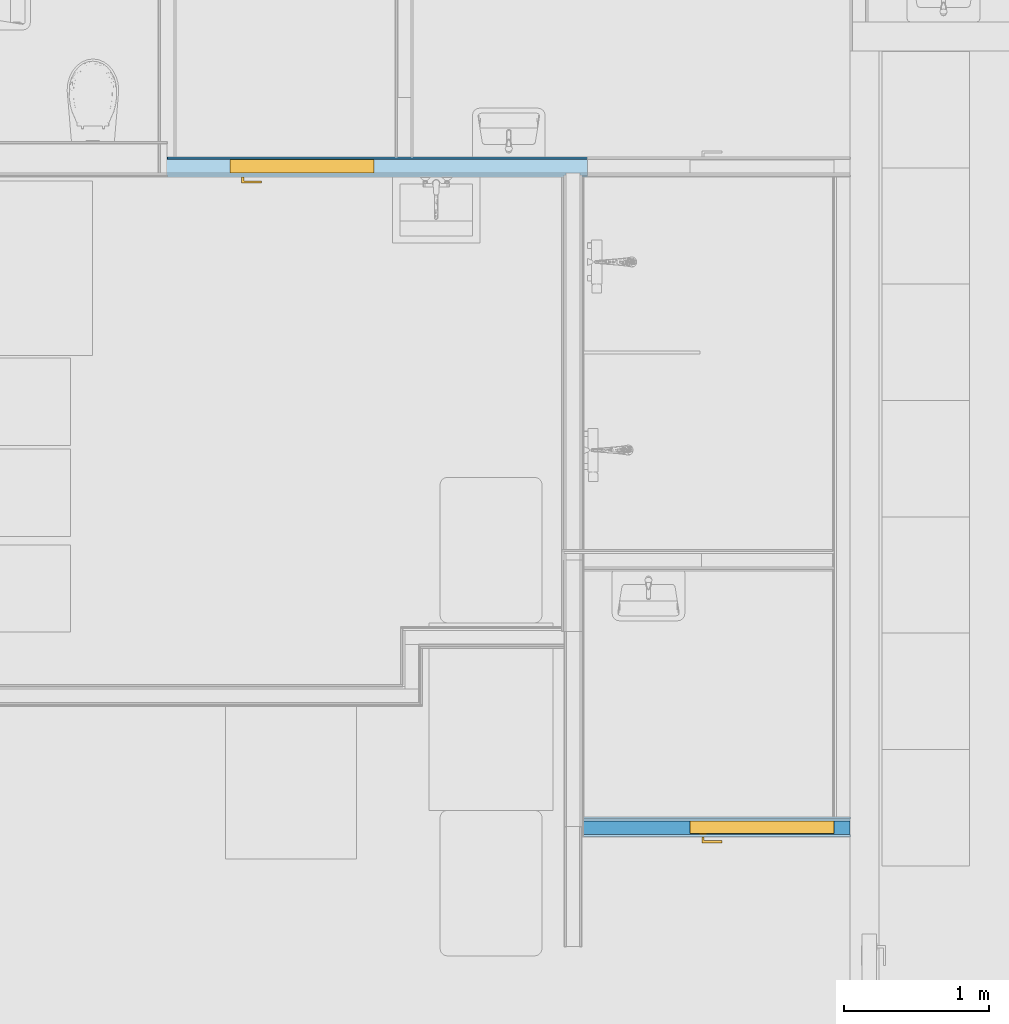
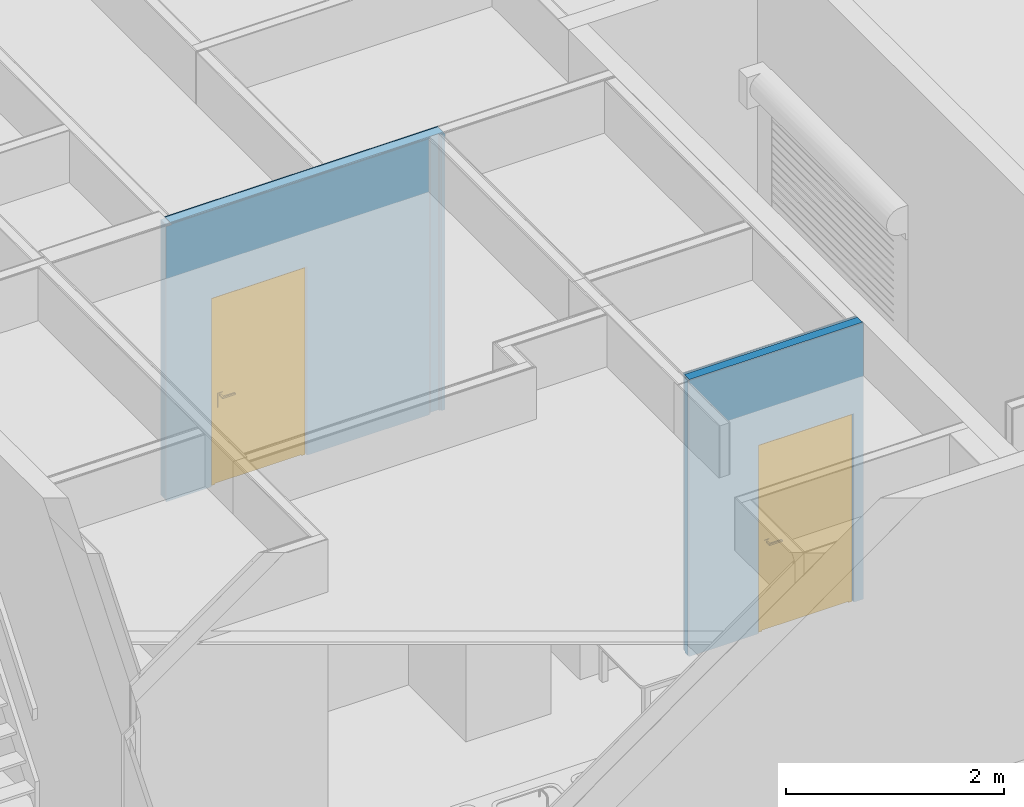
# One storey, part 24 of 67: 2 building element parts, 2 doors, 2 openings, 2 elements without a shape of their own, plus 8 elements that do not belong to this part.
"""IFC4 building model written with IfcOpenShell, lengths in millimetres."""

import ifcopenshell
import ifcopenshell.guid

model = None  # the IFC model being written
_history = None  # IfcOwnerHistory: only IFC2X3 demands one
_inside = {}  # id of a spatial element -> (the spatial element, [elements in it])
_under = {}  # id of a project, library or spatial element -> (it, [spatial elements below it])
_declared = {}  # id of a project -> (the project, [libraries it declares])
_typed = {}  # id of a type object -> (the type object, [elements of that type])
_made_of = {}  # id of a material, layer set ... -> (it, [elements and type objects made of it])


def new_model(schema):
    """Start an empty IFC model of exactly this schema.

    Asked for "IFC4X3", IfcOpenShell would pick the latest addendum, in which some entities
    have other attributes; the version numbers below select the first issue.
    IFC2X3 requires an IfcOwnerHistory on every rooted entity: one is made here for all.
    """
    global model, _history
    if schema == "IFC4X3":
        model = ifcopenshell.file(schema_version=(4, 3, 0, 0))
    else:
        model = ifcopenshell.file(schema=schema)
    _inside.clear()
    _under.clear()
    _declared.clear()
    _typed.clear()
    _made_of.clear()
    _history = None
    if model.schema == "IFC2X3":
        org = make("IfcOrganization", Name="unknown")
        user = make(
            "IfcPersonAndOrganization",
            ThePerson=make("IfcPerson", FamilyName="unknown"),
            TheOrganization=org,
        )
        app = make(
            "IfcApplication",
            ApplicationDeveloper=org,
            Version="unknown",
            ApplicationFullName="unknown",
            ApplicationIdentifier="unknown",
        )
        _history = make(
            "IfcOwnerHistory",
            OwningUser=user,
            OwningApplication=app,
            ChangeAction="ADDED",
            CreationDate=0,
        )
    return model


def make(cls, **values):
    """One entity of the class cls with the attributes given. An attribute that is None is left unset."""
    return model.create_entity(
        cls, **{name: value for name, value in values.items() if value is not None}
    )


def entity(cls, *values):
    """Any entity or typed value of the class cls, its attributes in the order of the schema. None: left unset."""
    e = model.create_entity(cls)
    for i, value in enumerate(values):
        if value is not None:
            e[i] = value
    return e


def rooted(cls, **values):
    """An entity with a GlobalId (a new one), such as an element, a storey or a relation."""
    return make(cls, GlobalId=ifcopenshell.guid.new(), OwnerHistory=_history, **values)


def si_unit(unit_type, name, prefix=None):
    """IfcSIUnit, for example si_unit("LENGTHUNIT", "METRE", prefix="MILLI")."""
    return make("IfcSIUnit", UnitType=unit_type, Prefix=prefix, Name=name)


def converted_unit(unit_type, name, factor, base, dimensions=None, offset=None):
    """IfcConversionBasedUnit, such as the inch: factor (a typed value) times the base unit."""
    return make(
        "IfcConversionBasedUnit"
        if offset is None
        else "IfcConversionBasedUnitWithOffset",
        ConversionOffset=offset,
        Dimensions=None
        if dimensions is None
        else entity("IfcDimensionalExponents", *dimensions),
        UnitType=unit_type,
        Name=name,
        ConversionFactor=make(
            "IfcMeasureWithUnit", ValueComponent=factor, UnitComponent=base
        ),
    )


def assignment(units):
    """IfcUnitAssignment: the units of a project."""
    return None if units is None else make("IfcUnitAssignment", Units=units)


def point(xyz):
    """IfcCartesianPoint."""
    return None if xyz is None else make("IfcCartesianPoint", Coordinates=xyz)


def direction(xyz):
    """IfcDirection."""
    return None if xyz is None else make("IfcDirection", DirectionRatios=xyz)


def frame(location, z_axis=None, x_axis=None):
    """IfcAxis2Placement3D, a coordinate frame: its origin and axes. An axis left out is left unset."""
    return make(
        "IfcAxis2Placement3D",
        Location=point(location),
        Axis=direction(z_axis),
        RefDirection=direction(x_axis),
    )


def origin():
    """The frame at (0, 0, 0) with its axes left unset."""
    return frame((0.0, 0.0, 0.0))


def place(relative_to, where):
    """IfcLocalPlacement: puts the frame where relative to a parent placement (None: the world)."""
    return make(
        "IfcLocalPlacement", PlacementRelTo=relative_to, RelativePlacement=where
    )


def context(
    kind, dimensions, precision=None, world=None, true_north=None, identifier=None
):
    """IfcGeometricRepresentationContext, for example the 3D "Model" context."""
    return make(
        "IfcGeometricRepresentationContext",
        ContextIdentifier=identifier,
        ContextType=kind,
        CoordinateSpaceDimension=dimensions,
        Precision=precision,
        WorldCoordinateSystem=world,
        TrueNorth=true_north,
    )


def subcontext(parent, identifier, kind, view, scale=None):
    """IfcGeometricRepresentationSubContext, for example "Body" below "Model"."""
    return make(
        "IfcGeometricRepresentationSubContext",
        ContextIdentifier=identifier,
        ContextType=kind,
        ParentContext=parent,
        TargetScale=scale,
        TargetView=view,
    )


def project(units=None, contexts=None):
    """IfcProject with its units and contexts."""
    return rooted(
        "IfcProject",
        Name="project",
        RepresentationContexts=contexts,
        UnitsInContext=assignment(units),
    )


def spatial(cls, under=None, at=None, **own):
    """A site, building, storey or space (cls), placed at a placement, below another one or the project."""
    s = rooted(cls, ObjectPlacement=at, **own)
    if under is not None:
        _under.setdefault(under.id(), (under, []))[1].append(s)
    return s


def point_list(points):
    """IfcCartesianPointList2D or 3D."""
    cls = (
        "IfcCartesianPointList2D" if len(points[0]) == 2 else "IfcCartesianPointList3D"
    )
    return make(cls, CoordList=points)


def indexed_curve(points, segments=None, self_intersect=None):
    """IfcIndexedPolyCurve: lines and arcs through numbered points (the first is 1)."""
    return make(
        "IfcIndexedPolyCurve",
        Points=point_list(points),
        Segments=segments,
        SelfIntersect=self_intersect,
    )


def outline(outer, holes=None, kind="AREA"):
    """IfcArbitraryClosedProfileDef: a profile drawn as a closed curve; with holes, ...WithVoids."""
    if holes is None:
        return make("IfcArbitraryClosedProfileDef", ProfileType=kind, OuterCurve=outer)
    return make(
        "IfcArbitraryProfileDefWithVoids",
        ProfileType=kind,
        OuterCurve=outer,
        InnerCurves=holes,
    )


def extrude(swept, where, along, depth):
    """IfcExtrudedAreaSolid: the profile swept, set in the frame where, extruded along a direction by depth."""
    return make(
        "IfcExtrudedAreaSolid",
        SweptArea=swept,
        Position=where,
        ExtrudedDirection=direction(along),
        Depth=depth,
    )


def polygons(points, faces, closed=None, point_numbers=None):
    """IfcPolygonalFaceSet: a face is its outer loop, then its inner loops; points numbered from 1."""
    made = []
    for loops in faces:
        if len(loops) == 1:
            made.append(make("IfcIndexedPolygonalFace", CoordIndex=loops[0]))
        else:
            made.append(
                make(
                    "IfcIndexedPolygonalFaceWithVoids",
                    CoordIndex=loops[0],
                    InnerCoordIndices=loops[1:],
                )
            )
    return make(
        "IfcPolygonalFaceSet",
        Coordinates=point_list(points),
        Closed=closed,
        Faces=made,
        PnIndex=point_numbers,
    )


def shape(context_of_items, identifier, shape_type, items):
    """IfcShapeRepresentation: the items that make up one representation, for example the "Body"."""
    return make(
        "IfcShapeRepresentation",
        ContextOfItems=context_of_items,
        RepresentationIdentifier=identifier,
        RepresentationType=shape_type,
        Items=items,
    )


def source(mapping_origin, context_of_items, identifier, shape_type, items):
    """IfcRepresentationMap: a shape defined once, which mapped items show again and again."""
    return make(
        "IfcRepresentationMap",
        MappingOrigin=mapping_origin,
        MappedRepresentation=shape(context_of_items, identifier, shape_type, items),
    )


def transform(
    local_origin,
    x_axis=None,
    y_axis=None,
    z_axis=None,
    scale=None,
    scale2=None,
    scale3=None,
    uniform=True,
):
    """IfcCartesianTransformationOperator3D, or its non-uniform kind. x_axis, y_axis, z_axis: its Axis1, 2, 3."""
    if uniform:
        return make(
            "IfcCartesianTransformationOperator3D",
            Axis1=direction(x_axis),
            Axis2=direction(y_axis),
            LocalOrigin=point(local_origin),
            Scale=scale,
            Axis3=direction(z_axis),
        )
    return make(
        "IfcCartesianTransformationOperator3DnonUniform",
        Axis1=direction(x_axis),
        Axis2=direction(y_axis),
        LocalOrigin=point(local_origin),
        Scale=scale,
        Axis3=direction(z_axis),
        Scale2=scale2,
        Scale3=scale3,
    )


def mapped(mapping_source, mapping_target):
    """IfcMappedItem: shows the shape of a source again, moved by a transform."""
    return make(
        "IfcMappedItem", MappingSource=mapping_source, MappingTarget=mapping_target
    )


def material(Name=None, Category=None):
    """IfcMaterial."""
    return make("IfcMaterial", Name=Name, Category=Category)


def constituent(of_material, Name=None, Category=None, fraction=None):
    """IfcMaterialConstituent: one of the materials an element consists of."""
    return make(
        "IfcMaterialConstituent",
        Name=Name,
        Material=of_material,
        Fraction=fraction,
        Category=Category,
    )


def constituent_set(constituents=None, Name=None):
    """IfcMaterialConstituentSet."""
    return make(
        "IfcMaterialConstituentSet", Name=Name, MaterialConstituents=constituents
    )


def made_of(thing, what):
    """Note that an element or type object is made of a material, layer set ...; save() writes the relation."""
    if what is not None:
        _made_of.setdefault(what.id(), (what, []))[1].append(thing)
    return thing


def type_object(cls, material=None, **own):
    """A type object (cls), such as IfcWallType, which elements share."""
    return made_of(rooted(cls, **own), material)


def type_shapes(of_type, sources):
    """Give a type object the sources (RepresentationMaps) that its elements show as mapped items."""
    of_type.RepresentationMaps = sources


def element(
    cls,
    number,
    at=None,
    inside=None,
    cuts=None,
    type_object=None,
    material=None,
    context=None,
    identifier="Body",
    shape_type=None,
    held_by="IfcProductDefinitionShape",
    body=None,
    shapes=None,
    **own,
):
    """One element of the class cls, such as IfcWall. Its Tag is "e" and its number.

    at: its placement. inside: the storey or other place that contains it. cuts: it is an
    opening in that element (IfcRelVoidsElement). A single representation is given by context,
    identifier, shape_type and body (its items); several are given by shapes. held_by: the class
    of the entity that holds the representations. save() writes the other relations.
    """
    e = rooted(cls, Tag="e%d" % number, ObjectPlacement=at, **own)
    if body is not None:
        shapes = [shape(context, identifier, shape_type, body)]
    if shapes is not None:
        e.Representation = make(held_by, Representations=shapes)
    if inside is not None:
        _inside.setdefault(inside.id(), (inside, []))[1].append(e)
    if cuts is not None:
        rooted(
            "IfcRelVoidsElement", RelatingBuildingElement=cuts, RelatedOpeningElement=e
        )
    if type_object is not None:
        _typed.setdefault(type_object.id(), (type_object, []))[1].append(e)
    return made_of(e, material)


def fill(opening, filler):
    """IfcRelFillsElement: the door or window that sits in an opening."""
    return rooted(
        "IfcRelFillsElement",
        RelatingOpeningElement=opening,
        RelatedBuildingElement=filler,
    )


def aggregate(whole, parts):
    """IfcRelAggregates: a whole, such as a stair, and the parts it consists of."""
    return rooted("IfcRelAggregates", RelatingObject=whole, RelatedObjects=parts)


def save(model, path):
    """Write the relations noted so far, then the file.

    IfcRelAggregates (storeys below a building ...), IfcRelContainedInSpatialStructure (elements
    in a storey), IfcRelDefinesByType, IfcRelAssociatesMaterial and IfcRelDeclares: one each for
    every whole, place, type object, material and project.
    """
    for whole, parts in _under.values():
        aggregate(whole, parts)
    for where, things in _inside.values():
        rooted(
            "IfcRelContainedInSpatialStructure",
            RelatedElements=things,
            RelatingStructure=where,
        )
    for kind, things in _typed.values():
        rooted("IfcRelDefinesByType", RelatedObjects=things, RelatingType=kind)
    for what, things in _made_of.values():
        rooted("IfcRelAssociatesMaterial", RelatedObjects=things, RelatingMaterial=what)
    for by, libraries in _declared.values():
        rooted("IfcRelDeclares", RelatingContext=by, RelatedDefinitions=libraries)
    model.write(path)


model = new_model("IFC4")

# Units and contexts
model_context = context("Model", 3, precision=0.01, world=origin(), true_north=direction((0.0, 1.0)))
body_context = subcontext(model_context, "Body", "Model", "MODEL_VIEW")
ifc_project = project(units=[si_unit("LENGTHUNIT", "METRE", prefix="MILLI"), si_unit("AREAUNIT", "SQUARE_METRE"), si_unit("VOLUMEUNIT", "CUBIC_METRE"), converted_unit("PLANEANGLEUNIT", "DEGREE", entity("IfcPlaneAngleMeasure", 0.017453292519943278), si_unit("PLANEANGLEUNIT", "RADIAN"), dimensions=[0, 0, 0, 0, 0, 0, 0])], contexts=[model_context])

# Site, building, storey
site_placement = place(None, origin())
site = spatial("IfcSite", under=ifc_project, at=site_placement, Name="Tomtens navn", CompositionType="ELEMENT")
building_placement = place(site_placement, origin())
building = spatial("IfcBuilding", under=site, at=building_placement, Name="Byggets navn", CompositionType="ELEMENT")
storey_placement = place(building_placement, origin())
storey = spatial("IfcBuildingStorey", under=building, at=storey_placement, Name="Level 01", CompositionType="ELEMENT", Elevation=2.1993652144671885e-25)

# Door
ifc_material_1 = material(Name="Rustfritt Stål", Category="Metal")
ifc_constituent_1 = constituent(ifc_material_1, Name="Rustfritt Stål", Category="Metal", fraction=0.0018055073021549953)
ifc_material_2 = material(Name="Hvit", Category="Paint")
ifc_constituent_2 = constituent(ifc_material_2, Name="Hvit", Category="Paint", fraction=0.998194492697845)
ifc_constituent_set_1 = constituent_set(constituents=[ifc_constituent_1, ifc_constituent_2])
ifc_constituent_3 = constituent(ifc_material_1, Name="Rustfritt Stål", Category="Metal", fraction=0.0009035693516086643)
ifc_constituent_4 = constituent(ifc_material_2, Name="Panel", Category="Paint", fraction=0.4995482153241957)
ifc_constituent_5 = constituent(ifc_material_2, Name="Frame/Mullion", Category="Paint", fraction=0.4995482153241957)
ifc_constituent_set_2 = constituent_set(constituents=[ifc_constituent_3, ifc_constituent_4, ifc_constituent_5])
door_type_1 = type_object("IfcDoorType", Name="Enfløyet:ID06 Tredør 10x21M", OperationType="SINGLE_SWING_LEFT", PredefinedType="DOOR", material=ifc_constituent_set_2)
shared_shape_1 = source(origin(), body_context, "Body", "SweptSolid", [
    extrude(outline(indexed_curve([(-33.33333333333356, -50.833333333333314), (24.16666666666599, -50.833333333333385), (24.16666666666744, 86.66666666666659), (9.166666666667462, 86.6666666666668), (9.166666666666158, -35.83333333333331), (-33.33333333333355, -35.83333333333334), (-33.33333333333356, -50.833333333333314)], self_intersect=False)), frame((868.6666666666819, 134.94103942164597, 980.5000000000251), z_axis=(0.0, 0.0, 1.0), x_axis=(0.0, 1.0, 0.0)), (0.0, 0.0, 1.0), 14.999999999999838),
    extrude(outline(indexed_curve([(-2.8000000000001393, -25.000000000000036), (2.799999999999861, -25.000000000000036), (2.8000000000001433, 25.000000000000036), (-2.799999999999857, 24.999999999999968), (-2.8000000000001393, -25.000000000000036)], self_intersect=False)), frame((912.0, 98.80000000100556, 850.9862950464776), z_axis=(0.0, 0.0, 1.0), x_axis=(0.0, -1.0, 0.0)), (0.0, 0.0, 1.0), 159.01370495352),
    extrude(outline(indexed_curve([(-50.83333333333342, -33.33333333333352), (-35.83333333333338, -33.33333333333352), (-35.83333333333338, 9.16666666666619), (86.66666666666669, 9.1666666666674), (86.66666666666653, 24.1666666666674), (-50.83333333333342, 24.16666666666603), (-50.83333333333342, -33.33333333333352)], self_intersect=False)), frame((868.6666666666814, 17.058960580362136, 980.5000000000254), z_axis=(0.0, 0.0, 1.0), x_axis=(-1.0, 0.0, 0.0)), (0.0, 0.0, 1.0), 14.999999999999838),
    extrude(outline(indexed_curve([(-25.0, -2.8000000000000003), (25.0, -2.8000000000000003), (24.999999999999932, 2.7999999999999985), (-25.0, 2.8000000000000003), (-25.0, -2.8000000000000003)], self_intersect=False)), frame((912.0, 53.20000000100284, 850.9862950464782)), (0.0, 0.0, 1.0), 159.01370495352),
    extrude(outline(indexed_curve([(-456.9999999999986, -20.0), (456.9999999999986, -20.0), (456.9999999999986, 20.0), (-456.9999999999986, 20.0), (-456.9999999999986, -20.0)], self_intersect=False)), frame((505.0, 76.00000000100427, 10.0)), (0.0, 0.0, 1.0), 2042.0),
    extrude(outline(indexed_curve([(456.9999999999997, -1035.4999999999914), (494.99999999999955, -1035.4999999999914), (494.99999999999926, 1054.4999999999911), (-494.99999999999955, 1054.4999999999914), (-494.99999999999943, -1035.4999999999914), (-456.99999999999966, -1035.4999999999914), (-456.9999999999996, 1016.4999999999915), (456.9999999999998, 1016.4999999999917), (456.9999999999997, -1035.4999999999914)], self_intersect=False)), frame((505.0, 96.00000000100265, 1035.4999999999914), z_axis=(0.0, -1.0, 0.0), x_axis=(1.0, 0.0, 0.0)), (0.0, 0.0, 1.0), 99.99999999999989),
])
type_shapes(door_type_1, [shared_shape_1])
wall_1_placement = place(storey_placement, frame((64815.35352810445, 15671.96645692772, 0.0), z_axis=(0.0, 0.0, 1.0), x_axis=(-1.0, 0.0, 0.0)))
opening_1_placement = place(wall_1_placement, frame((1457.5000000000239, -68.0, 0.0)))
door_1_placement = place(opening_1_placement, frame((0.0, 20.0, 0.0)))
door_1 = element("IfcDoor", 1, at=door_1_placement, inside=storey, type_object=door_type_1, material=ifc_constituent_set_1, Name="Enfløyet:ID06 Tredør 10x21M", OverallHeight=2110.000000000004, OverallWidth=1009.9999999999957, PredefinedType="DOOR", context=body_context, shape_type="MappedRepresentation", body=[
    mapped(shared_shape_1, transform((0.0, 0.0, 0.0), scale=1.0)),
])

ifc_constituent_6 = constituent(ifc_material_1, Name="Rustfritt Stål", Category="Metal", fraction=0.0018055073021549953)
ifc_constituent_7 = constituent(ifc_material_2, Name="Hvit", Category="Paint", fraction=0.998194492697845)
ifc_constituent_set_3 = constituent_set(constituents=[ifc_constituent_6, ifc_constituent_7])
ifc_constituent_8 = constituent(ifc_material_1, Name="Rustfritt Stål", Category="Metal", fraction=0.0009035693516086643)
ifc_constituent_9 = constituent(ifc_material_2, Name="Panel", Category="Paint", fraction=0.4995482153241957)
ifc_constituent_10 = constituent(ifc_material_2, Name="Frame/Mullion", Category="Paint", fraction=0.4995482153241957)
ifc_constituent_set_4 = constituent_set(constituents=[ifc_constituent_8, ifc_constituent_9, ifc_constituent_10])
door_type_2 = type_object("IfcDoorType", Name="Enfløyet:ID06 Tredør 10x21M", OperationType="SINGLE_SWING_LEFT", PredefinedType="DOOR", material=ifc_constituent_set_4)
shared_shape_2 = source(origin(), body_context, "Body", "SweptSolid", [
    extrude(outline(indexed_curve([(-33.33333333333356, -50.833333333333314), (24.16666666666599, -50.833333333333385), (24.16666666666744, 86.66666666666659), (9.166666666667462, 86.6666666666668), (9.166666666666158, -35.83333333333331), (-33.33333333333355, -35.83333333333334), (-33.33333333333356, -50.833333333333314)], self_intersect=False)), frame((868.6666666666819, 132.94103942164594, 980.5000000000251), z_axis=(0.0, 0.0, 1.0), x_axis=(0.0, 1.0, 0.0)), (0.0, 0.0, 1.0), 14.999999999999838),
    extrude(outline(indexed_curve([(-2.8000000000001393, -25.000000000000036), (2.799999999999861, -25.000000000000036), (2.8000000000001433, 25.000000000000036), (-2.799999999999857, 24.999999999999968), (-2.8000000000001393, -25.000000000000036)], self_intersect=False)), frame((912.0, 96.8000000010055, 850.9862950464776), z_axis=(0.0, 0.0, 1.0), x_axis=(0.0, -1.0, 0.0)), (0.0, 0.0, 1.0), 159.01370495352),
    extrude(outline(indexed_curve([(-50.83333333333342, -33.33333333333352), (-35.83333333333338, -33.33333333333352), (-35.83333333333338, 9.16666666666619), (86.66666666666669, 9.1666666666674), (86.66666666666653, 24.1666666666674), (-50.83333333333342, 24.16666666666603), (-50.83333333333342, -33.33333333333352)], self_intersect=False)), frame((868.6666666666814, 15.0589605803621, 980.5000000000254), z_axis=(0.0, 0.0, 1.0), x_axis=(-1.0, 0.0, 0.0)), (0.0, 0.0, 1.0), 14.999999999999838),
    extrude(outline(indexed_curve([(-25.0, -2.8000000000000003), (25.0, -2.8000000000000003), (24.999999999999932, 2.7999999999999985), (-25.0, 2.8000000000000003), (-25.0, -2.8000000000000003)], self_intersect=False)), frame((912.0, 51.200000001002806, 850.9862950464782)), (0.0, 0.0, 1.0), 159.01370495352),
    extrude(outline(indexed_curve([(-456.9999999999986, -20.0), (456.9999999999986, -20.0), (456.9999999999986, 20.0), (-456.9999999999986, 20.0), (-456.9999999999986, -20.0)], self_intersect=False)), frame((505.0, 74.00000000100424, 10.0)), (0.0, 0.0, 1.0), 2042.0),
    extrude(outline(indexed_curve([(456.9999999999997, -1035.4999999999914), (494.99999999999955, -1035.4999999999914), (494.99999999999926, 1054.4999999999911), (-494.99999999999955, 1054.4999999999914), (-494.99999999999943, -1035.4999999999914), (-456.99999999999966, -1035.4999999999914), (-456.9999999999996, 1016.4999999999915), (456.9999999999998, 1016.4999999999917), (456.9999999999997, -1035.4999999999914)], self_intersect=False)), frame((505.0, 94.00000000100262, 1035.4999999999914), z_axis=(0.0, -1.0, 0.0), x_axis=(1.0, 0.0, 0.0)), (0.0, 0.0, 1.0), 99.99999999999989),
])
type_shapes(door_type_2, [shared_shape_2])
wall_2_placement = place(storey_placement, frame((64776.85352810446, 11134.466456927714, 0.0)))
opening_2_placement = place(wall_2_placement, frame((1746.0, 67.0, 0.0)))
door_2_placement = place(opening_2_placement, frame((0.0, -20.0, 0.0), z_axis=(0.0, 0.0, 1.0), x_axis=(-1.0, 0.0, 0.0)))
door_2 = element("IfcDoor", 2, at=door_2_placement, inside=storey, type_object=door_type_2, material=ifc_constituent_set_3, Name="Enfløyet:ID06 Tredør 10x21M", OverallHeight=2110.000000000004, OverallWidth=1009.9999999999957, PredefinedType="DOOR", context=body_context, shape_type="MappedRepresentation", body=[
    mapped(shared_shape_2, transform((0.0, 0.0, 0.0), scale=1.0)),
])

# Wall, opening
wall_type_1 = type_object("IfcWallType", Name="Basic Wall:IV14 Gips 95 Stender kryssfiner Gips", PredefinedType="STANDARD")
wall_1 = element("IfcWall", 3, at=wall_1_placement, inside=storey, type_object=wall_type_1, Name="Basic Wall:IV14 Gips 95 Stender kryssfiner Gips", PredefinedType="NOTDEFINED")
opening_1 = element("IfcOpeningElement", 4, at=opening_1_placement, cuts=wall_1, Name="Enfløyet:ID06 Tredør 10x21M:1", PredefinedType="OPENING", context=body_context, shape_type="SweptSolid", body=[
    extrude(outline(indexed_curve([(0.0, 3.5193181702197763e-12), (2110.000000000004, 3.5193181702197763e-12), (2110.000000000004, 1009.9999999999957), (0.0, 1009.9999999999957), (0.0, 3.5193181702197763e-12)], self_intersect=False)), frame((0.0, 0.0, 0.0), z_axis=(0.0, 1.0, 0.0), x_axis=(0.0, 0.0, 1.0)), (0.0, 0.0, 1.0), 136.0),
])

fill(opening_1, door_1)

# Building element part
ifc_material_3 = material(Name="NO_Kryssfiner", Category="Tre")
building_element_part_1_placement = place(wall_1_placement, origin())
building_element_part_1 = element("IfcBuildingElementPart", 5, at=building_element_part_1_placement, material=ifc_material_3, Name="NO_Kryssfiner", context=body_context, shape_type="SweptSolid", body=[
    extrude(outline(indexed_curve([(-7.500000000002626, -25.749999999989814), (7.499999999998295, -25.749999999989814), (7.499999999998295, 25.749999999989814), (-7.500000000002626, 25.749999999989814), (-7.500000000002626, -25.749999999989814)], self_intersect=False)), frame((25.74999999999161, 47.500000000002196, 0.0), z_axis=(0.0, 0.0, 1.0), x_axis=(0.0, 1.0, 0.0)), (0.0, 0.0, 1.0), 3087.999999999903),
])

building_element_part_2_placement = place(wall_1_placement, frame((2937.0, 55.0, 0.0)))
building_element_part_2 = element("IfcBuildingElementPart", 6, at=building_element_part_2_placement, material=ifc_material_3, Name="NO_Kryssfiner", context=body_context, shape_type="Tessellation", body=[
    polygons([(9.067655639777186e-12, 0.0, 3079.9999999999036), (-47.500000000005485, 0.0, 3079.9999999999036), (-47.500000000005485, -15.000000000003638, 3079.9999999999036), (9.069376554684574e-12, -15.000000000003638, 3079.9999999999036), (-1479.4999999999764, 0.0, 7.331217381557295e-26), (-1479.4999999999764, 0.0, 2110.000000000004), (-1479.4999999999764, -15.000000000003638, 2110.000000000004), (-1479.4999999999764, -15.000000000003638, 7.331217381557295e-26), (-469.4999999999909, 0.0, 2110.0000000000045), (-469.4999999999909, -15.000000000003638, 2110.000000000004), (-469.4999999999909, 0.0, 7.331217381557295e-26), (-469.4999999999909, -15.000000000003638, 7.331217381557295e-26), (9.067655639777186e-12, 0.0, 7.331217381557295e-26), (9.069376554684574e-12, -15.000000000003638, 7.331217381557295e-26), (-2790.5000000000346, 0.0, 3079.9999999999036), (-2790.5000000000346, 0.0, 7.331217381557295e-26), (-2790.5000000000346, -15.000000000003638, 7.331217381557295e-26), (-2790.5000000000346, -15.0, 3079.9999999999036), (-2790.5000000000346, -15.000000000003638, 3087.999999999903), (-2790.5000000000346, 0.0, 3087.999999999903), (-47.500000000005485, 0.0, 3087.999999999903), (-47.500000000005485, -15.000000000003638, 3087.999999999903)], [[[1, 2, 3, 4]], [[5, 6, 7, 8]], [[6, 9, 10, 7]], [[9, 11, 12, 10]], [[11, 13, 14, 12]], [[14, 13, 1, 4]], [[15, 16, 17, 18, 19, 20]], [[2, 21, 22, 3]], [[21, 20, 19, 22]], [[8, 7, 10, 12, 14, 4, 3, 22, 19, 18, 17]], [[5, 8, 17, 16]], [[13, 11, 9, 6, 5, 16, 15, 20, 21, 2, 1]]], closed=True),
])

ifc_material_4 = material(Name="Stender", Category="Unassigned")
building_element_part_3_placement = place(wall_1_placement, frame((2937.0, 40.0, 0.0)))
building_element_part_3 = element("IfcBuildingElementPart", 7, at=building_element_part_3_placement, material=ifc_material_4, Name="Stender", context=body_context, shape_type="Tessellation", body=[
    polygons([(-47.50000000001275, -95.00000000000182, 3079.9999999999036), (9.080275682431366e-12, -95.00000000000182, 3079.9999999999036), (9.069376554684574e-12, -3.637978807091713e-12, 3079.9999999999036), (-47.500000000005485, -3.637978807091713e-12, 3079.9999999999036), (-2937.0000000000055, -95.00000000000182, 7.331217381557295e-26), (-1479.4999999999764, -95.00000000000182, 7.331217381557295e-26), (-1479.4999999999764, -95.00000000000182, 2110.000000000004), (-469.4999999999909, -95.00000000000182, 2110.000000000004), (-469.4999999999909, -95.00000000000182, 7.331217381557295e-26), (9.080275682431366e-12, -95.00000000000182, 7.331217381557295e-26), (-47.50000000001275, -95.00000000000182, 3087.999999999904), (-2937.0000000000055, -95.00000000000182, 3087.999999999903), (-2937.0000000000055, -95.00000000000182, 3079.9999999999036), (-2937.0000000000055, -3.637978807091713e-12, 7.331217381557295e-26), (-1479.4999999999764, -3.637978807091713e-12, 7.331217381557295e-26), (-1479.4999999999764, -3.637978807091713e-12, 2110.000000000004), (-469.4999999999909, -3.637978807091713e-12, 2110.000000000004), (-469.4999999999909, -3.637978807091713e-12, 7.331217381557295e-26), (9.069376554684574e-12, -3.637978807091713e-12, 7.331217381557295e-26), (-2937.0000000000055, -3.637978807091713e-12, 3087.999999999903), (-2937.0000000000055, 0.0, 3079.9999999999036), (-47.500000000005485, -3.637978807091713e-12, 3087.999999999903)], [[[1, 2, 3, 4]], [[5, 6, 7, 8, 9, 10, 2, 1, 11, 12, 13]], [[6, 5, 14, 15]], [[7, 6, 15, 16]], [[8, 7, 16, 17]], [[9, 8, 17, 18]], [[10, 9, 18, 19]], [[5, 13, 12, 20, 21, 14]], [[15, 14, 21, 20, 22, 4, 3, 19, 18, 17, 16]], [[10, 19, 3, 2]], [[11, 1, 4, 22]], [[12, 11, 22, 20]]], closed=True),
])

ifc_material_5 = material(Name="Gipsplater", Category="NOR ^ Gips")
building_element_part_4_placement = place(wall_1_placement, frame((2889.4999999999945, -55.0, 0.0)))
building_element_part_4 = element("IfcBuildingElementPart", 8, at=building_element_part_4_placement, material=ifc_material_5, Name="Gipsplater", context=body_context, shape_type="Tessellation", body=[
    polygons([(-1689.999999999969, -13.0, 2.1993652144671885e-25), (-2889.499999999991, -13.0, 1.466243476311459e-25), (-2889.499999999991, -1.8189894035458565e-12, 7.331217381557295e-26), (-1676.9999999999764, -1.8189894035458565e-12, 7.331217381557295e-26), (-1676.9999999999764, -13.0, 1.466243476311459e-25), (-1431.9999999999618, -1.8189894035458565e-12, 7.331217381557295e-26), (-1431.9999999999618, -1.8189894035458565e-12, 2110.000000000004), (-1431.9999999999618, -13.0, 2110.000000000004), (-1431.9999999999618, -13.0, 2.1993652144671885e-25), (-421.99999999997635, -1.8189894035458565e-12, 2110.000000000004), (-421.99999999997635, -13.0, 2110.000000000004), (-421.99999999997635, -1.8189894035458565e-12, 7.331217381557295e-26), (-421.99999999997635, -13.0, 2.1993652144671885e-25), (-47.49999999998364, -1.8189894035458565e-12, 7.331217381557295e-26), (-47.49999999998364, -13.0, 2.1993652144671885e-25), (-60.49999999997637, -13.0, 2.1993652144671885e-25), (-2889.499999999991, -1.8189894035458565e-12, 3079.9999999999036), (-2889.499999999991, -13.0, 3079.9999999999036), (-2889.499999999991, -13.0, 3087.999999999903), (-2889.499999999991, -1.8189894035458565e-12, 3087.999999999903), (-47.49999999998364, -13.0, 3079.9999999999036), (-47.49999999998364, -1.8189894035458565e-12, 3079.9999999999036), (-1676.9999999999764, -1.8189894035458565e-12, 3079.9999999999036), (-1676.9999999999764, -13.0, 3079.9999999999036), (-1581.9999999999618, -1.8189894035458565e-12, 3079.9999999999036), (-1581.9999999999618, -1.8189894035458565e-12, 7.331217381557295e-26), (-1581.9999999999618, -13.0, 1.466243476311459e-25), (-1581.9999999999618, -12.999999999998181, 3079.9999999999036), (9.080275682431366e-12, -1.8189894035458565e-12, 3079.9999999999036), (9.081767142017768e-12, -13.0, 3079.9999999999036), (9.080275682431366e-12, -1.8189894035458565e-12, 3087.999999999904), (9.081767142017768e-12, -13.0, 3087.999999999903), (-1568.999999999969, -13.0, 2.1993652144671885e-25)], [[[1, 2, 3, 4, 5]], [[6, 7, 8, 9]], [[7, 10, 11, 8]], [[10, 12, 13, 11]], [[12, 14, 15, 16, 13]], [[17, 3, 2, 18, 19, 20]], [[21, 15, 14, 22]], [[4, 23, 24, 5]], [[25, 26, 27, 28]], [[29, 30, 21, 22]], [[30, 29, 31, 32]], [[31, 20, 19, 32]], [[23, 25, 28, 24]], [[33, 9, 8, 11, 13, 16, 15, 21, 30, 32, 19, 18, 2, 1, 5, 24, 28, 27]], [[6, 9, 33, 27, 26]], [[14, 12, 10, 7, 6, 26, 25, 23, 4, 3, 17, 20, 31, 29, 22]]], closed=True),
])

building_element_part_5_placement = place(wall_1_placement, origin())
building_element_part_5 = element("IfcBuildingElementPart", 9, at=building_element_part_5_placement, material=ifc_material_5, Name="Gipsplater", context=body_context, shape_type="SweptSolid", body=[
    extrude(outline(indexed_curve([(-6.499999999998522, -18.249999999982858), (6.500000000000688, -18.249999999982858), (6.500000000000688, 18.24999999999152), (-6.499999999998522, 18.24999999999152), (-6.499999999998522, -18.249999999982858)], self_intersect=False)), frame((18.24999999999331, 61.49999999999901, 0.0), z_axis=(0.0, 0.0, 1.0), x_axis=(0.0, 1.0, 0.0)), (0.0, 0.0, 1.0), 3087.999999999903),
])

building_element_part_6_placement = place(wall_1_placement, frame((2950.0, 68.0, 0.0)))
building_element_part_6 = element("IfcBuildingElementPart", 10, at=building_element_part_6_placement, material=ifc_material_5, Name="Gipsplater", context=body_context, shape_type="Tessellation", body=[
    polygons([(-60.50000000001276, -12.999999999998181, 3079.9999999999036), (1.7916980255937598e-12, -12.999999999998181, 3079.9999999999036), (1.7902065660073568e-12, 1.8189894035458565e-12, 3079.9999999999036), (-60.50000000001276, 1.8189894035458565e-12, 3079.9999999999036), (-1492.4999999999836, -12.999999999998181, 2110.0000000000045), (-1492.4999999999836, -12.999999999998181, 7.331217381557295e-26), (-1492.4999999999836, 1.8189894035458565e-12, 2.1993652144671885e-25), (-1492.4999999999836, 1.8189894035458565e-12, 2110.000000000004), (-482.4999999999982, -12.999999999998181, 2110.0000000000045), (-482.49999999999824, 1.8189894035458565e-12, 2110.000000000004), (-482.4999999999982, -12.999999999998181, 7.331217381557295e-26), (-482.49999999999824, 1.8189894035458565e-12, 2.1993652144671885e-25), (1.7916980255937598e-12, -12.999999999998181, 7.331217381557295e-26), (1.7902065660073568e-12, 1.8189894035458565e-12, 2.1993652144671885e-25), (-2775.5000000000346, 1.8189894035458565e-12, 2.1993652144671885e-25), (-2788.5000000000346, 1.8189894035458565e-12, 1.466243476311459e-25), (-2788.5000000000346, 1.8189894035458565e-12, 3079.999999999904), (-2788.5000000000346, 1.8189894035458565e-12, 3087.999999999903), (-2775.5000000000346, 1.8189894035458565e-12, 3087.999999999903), (-60.50000000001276, 1.8189894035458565e-12, 3087.999999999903), (-2788.5000000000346, -12.999999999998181, 1.409983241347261e-15), (-2788.5000000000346, -12.999999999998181, 3079.9999999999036), (-2788.5000000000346, -12.999999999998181, 3087.999999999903), (-60.50000000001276, -12.999999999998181, 3087.999999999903)], [[[1, 2, 3, 4]], [[5, 6, 7, 8]], [[9, 5, 8, 10]], [[11, 9, 10, 12]], [[13, 11, 12, 14]], [[2, 13, 14, 3]], [[3, 14, 12, 10, 8, 7, 15, 16, 17, 18, 19, 20, 4]], [[21, 22, 23, 18, 17, 16]], [[24, 1, 4, 20]], [[23, 24, 20, 19, 18]], [[15, 7, 6, 21, 16]], [[6, 5, 9, 11, 13, 2, 1, 24, 23, 22, 21]]], closed=True),
])

aggregate(wall_1, [building_element_part_1, building_element_part_2, building_element_part_3, building_element_part_4, building_element_part_5, building_element_part_6])

# Wall, opening
wall_type_2 = type_object("IfcWallType", Name="Basic Wall:IV08 Forestia 95 stålstender +15mm kryssfiner+baderomsplater 2", PredefinedType="STANDARD")
wall_2 = element("IfcWall", 11, at=wall_2_placement, inside=storey, type_object=wall_type_2, Name="Basic Wall:IV08 Forestia 95 stålstender +15mm kryssfiner+baderomsplater 2", PredefinedType="NOTDEFINED")
opening_2 = element("IfcOpeningElement", 12, at=opening_2_placement, cuts=wall_2, Name="Enfløyet:ID06 Tredør 10x21M:1", PredefinedType="OPENING", context=body_context, shape_type="SweptSolid", body=[
    extrude(outline(indexed_curve([(0.0, 3.5193181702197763e-12), (2110.000000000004, 3.5193181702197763e-12), (2110.000000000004, 1009.9999999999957), (0.0, 1009.9999999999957), (0.0, 3.5193181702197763e-12)], self_intersect=False)), frame((0.0, 0.0, 0.0), z_axis=(0.0, -1.0, 0.0), x_axis=(0.0, 0.0, 1.0)), (0.0, 0.0, 1.0), 134.0),
])

fill(opening_2, door_2)

# Building element part
building_element_part_7_placement = place(wall_2_placement, frame((13.0, 41.0, 0.0)))
building_element_part_7 = element("IfcBuildingElementPart", 13, at=building_element_part_7_placement, material=ifc_material_3, Name="NO_Kryssfiner", context=body_context, shape_type="Tessellation", body=[
    polygons([(1732.9999999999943, 15.0, 7.331217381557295e-26), (1732.9999999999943, 15.0, 2110.000000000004), (723.0000000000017, 15.000000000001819, 2110.000000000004), (723.0000000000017, 15.000000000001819, 7.331217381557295e-26), (1.7023339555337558e-12, 15.000000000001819, 7.331217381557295e-26), (1.7023339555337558e-12, 15.000000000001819, 3080.0), (1.7023339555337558e-12, 15.000000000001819, 3087.999999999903), (1832.9999999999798, 15.0, 3087.999999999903), (1832.9999999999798, 15.0, 3081.346137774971), (1737.9999999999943, 15.0, 3081.346137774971), (1737.9999999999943, 15.0, 3080.0), (1737.9999999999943, 15.0, 7.331217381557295e-26), (1732.9999999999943, 0.0, 7.331217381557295e-26), (1737.9999999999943, 0.0, 7.331217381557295e-26), (1.7000521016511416e-12, 1.8189894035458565e-12, 7.331217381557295e-26), (1.7000521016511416e-12, 1.8189894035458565e-12, 3080.0), (1.7000521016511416e-12, 1.8189894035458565e-12, 3087.999999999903), (723.0000000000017, 1.8189894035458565e-12, 7.331217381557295e-26), (723.0000000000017, 1.8189894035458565e-12, 2110.000000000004), (1732.9999999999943, 0.0, 2110.000000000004), (1737.9999999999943, 0.0, 3080.0), (1737.9999999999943, 0.0, 3081.346137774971), (1832.9999999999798, 0.0, 3081.346137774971), (1832.9999999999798, 0.0, 3087.999999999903)], [[[1, 2, 3, 4, 5, 6, 7, 8, 9, 10, 11, 12]], [[13, 1, 12, 14]], [[6, 5, 15, 16, 17, 7]], [[5, 4, 18, 15]], [[4, 3, 19, 18]], [[3, 2, 20, 19]], [[2, 1, 13, 20]], [[15, 18, 19, 20, 13, 14, 21, 22, 23, 24, 17, 16]], [[12, 11, 10, 22, 21, 14]], [[9, 8, 24, 23]], [[8, 7, 17, 24]], [[10, 9, 23, 22]]], closed=True),
])

building_element_part_8_placement = place(wall_2_placement, frame((0.0, -54.0, 0.0)))
building_element_part_8 = element("IfcBuildingElementPart", 14, at=building_element_part_8_placement, material=ifc_material_4, Name="Stender", context=body_context, shape_type="Tessellation", body=[
    polygons([(1.6856003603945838e-12, 1.8189894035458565e-12, 3080.0), (13.000000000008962, 1.8189894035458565e-12, 3080.0), (13.00000000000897, 54.890105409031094, 3080.0), (1.6939504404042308e-12, 54.890105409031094, 3080.0), (1746.0000000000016, 0.0, 7.331217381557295e-26), (1845.999999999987, 0.0, 7.331217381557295e-26), (1845.999999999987, 0.0, 3080.0), (1845.999999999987, 0.0, 3087.999999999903), (13.000000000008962, 1.8189894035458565e-12, 3087.999999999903), (1.6856003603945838e-12, 1.8189894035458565e-12, 7.331217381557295e-26), (736.000000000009, 1.8189894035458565e-12, 7.331217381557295e-26), (736.000000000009, 1.8189894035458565e-12, 2110.0000000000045), (1746.0000000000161, 0.0, 2110.0000000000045), (1746.0000000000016, 95.0, 7.331217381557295e-26), (1845.999999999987, 95.0, 7.331217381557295e-26), (1845.999999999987, 95.0, 3080.0), (1845.999999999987, 95.0, 3087.999999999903), (13.000000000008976, 95.00000000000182, 7.331217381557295e-26), (13.00000000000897, 54.890105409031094, 1.466243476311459e-25), (13.000000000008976, 95.00000000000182, 3087.999999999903), (13.000000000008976, 95.00000000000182, 3080.0), (1.6939504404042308e-12, 54.890105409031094, 1.466243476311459e-25), (736.000000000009, 95.00000000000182, 7.331217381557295e-26), (736.000000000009, 95.00000000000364, 2110.000000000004), (1746.0000000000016, 95.00000000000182, 2110.000000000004)], [[[1, 2, 3, 4]], [[5, 6, 7, 8, 9, 2, 1, 10, 11, 12, 13]], [[6, 5, 14, 15]], [[7, 6, 15, 16, 17, 8]], [[18, 19, 3, 2, 9, 20, 21]], [[11, 10, 22, 19, 18, 23]], [[12, 11, 23, 24]], [[13, 12, 24, 25]], [[5, 13, 25, 14]], [[10, 1, 4, 22]], [[19, 22, 4, 3]], [[23, 18, 21, 20, 17, 16, 15, 14, 25, 24]], [[9, 8, 17, 20]]], closed=True),
])

ifc_material_6 = material(Name="NO_platekledning forestia", Category="Tre")
building_element_part_9_placement = place(wall_2_placement, frame((0.0, -67.0, 0.0)))
building_element_part_9 = element("IfcBuildingElementPart", 15, at=building_element_part_9_placement, material=ifc_material_6, Name="NO_platekledning forestia", context=body_context, shape_type="Tessellation", body=[
    polygons([(13.000000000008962, 13.0, 3080.0), (1.6856003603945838e-12, 13.0, 3080.0), (1.683622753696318e-12, 0.0, 3080.0), (13.00000000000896, 0.0, 3080.0), (1845.999999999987, 12.999999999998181, 7.331217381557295e-26), (1746.0000000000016, 12.999999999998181, 7.331217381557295e-26), (1746.0000000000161, 12.999999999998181, 2110.0000000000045), (736.000000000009, 13.0, 2110.0000000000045), (736.000000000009, 13.0, 7.331217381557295e-26), (1.6856003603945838e-12, 13.0, 7.331217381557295e-26), (13.000000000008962, 13.0, 3087.999999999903), (1845.999999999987, 12.999999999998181, 3087.999999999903), (1845.999999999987, 12.999999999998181, 3080.0), (1845.999999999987, 0.0, 2.1993652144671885e-25), (1746.0000000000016, 0.0, 2.1993652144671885e-25), (1845.999999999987, 0.0, 3087.999999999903), (1845.999999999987, 0.0, 3080.0), (736.000000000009, 0.0, 2.1993652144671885e-25), (1.683622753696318e-12, 0.0, 2.1993652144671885e-25), (736.000000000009, 0.0, 2110.000000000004), (1746.0000000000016, 0.0, 2110.000000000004), (13.00000000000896, 0.0, 3087.999999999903)], [[[1, 2, 3, 4]], [[5, 6, 7, 8, 9, 10, 2, 1, 11, 12, 13]], [[6, 5, 14, 15]], [[5, 13, 12, 16, 17, 14]], [[10, 9, 18, 19]], [[9, 8, 20, 18]], [[8, 7, 21, 20]], [[7, 6, 15, 21]], [[2, 10, 19, 3]], [[19, 18, 20, 21, 15, 14, 17, 16, 22, 4, 3]], [[12, 11, 22, 16]], [[11, 1, 4, 22]]], closed=True),
])

ifc_material_7 = material(Name="NO_Baderomsplater", Category="Tre")
building_element_part_10_placement = place(wall_2_placement, frame((13.0, 56.0, 0.0)))
building_element_part_10 = element("IfcBuildingElementPart", 16, at=building_element_part_10_placement, material=ifc_material_7, Name="NO_Baderomsplater", context=body_context, shape_type="Tessellation", body=[
    polygons([(1.7023339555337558e-12, 1.8189894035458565e-12, 3080.0), (1.7023339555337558e-12, 1.8189894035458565e-12, 7.331217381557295e-26), (723.0000000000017, 1.8189894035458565e-12, 7.331217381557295e-26), (723.0000000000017, 1.8189894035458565e-12, 2110.000000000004), (1722.9999999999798, 0.0, 2110.000000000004), (1722.9999999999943, 0.0, 3080.0), (1722.9999999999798, 0.0, 3081.346137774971), (1832.9999999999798, 0.0, 3081.346137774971), (1832.9999999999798, 0.0, 3087.999999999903), (1.7023339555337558e-12, 1.8189894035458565e-12, 3087.999999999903), (1.704007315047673e-12, 11.000000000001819, 3087.999999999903), (1.704007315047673e-12, 11.000000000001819, 3080.0), (1.704007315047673e-12, 11.000000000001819, 2.1993652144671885e-25), (723.0000000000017, 11.000000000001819, 2.1993652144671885e-25), (723.0000000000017, 11.000000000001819, 2110.000000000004), (1722.9999999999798, 11.000000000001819, 2110.000000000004), (1832.9999999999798, 11.000000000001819, 3087.999999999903), (1832.9999999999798, 11.000000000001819, 3081.346137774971), (1722.9999999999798, 11.000000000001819, 3081.346137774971), (1722.9999999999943, 11.000000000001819, 3080.0)], [[[1, 2, 3, 4, 5, 6, 7, 8, 9, 10]], [[2, 1, 10, 11, 12, 13]], [[3, 2, 13, 14]], [[4, 3, 14, 15]], [[4, 15, 16, 5]], [[15, 14, 13, 12, 11, 17, 18, 19, 20, 16]], [[6, 5, 16, 20, 19, 7]], [[9, 8, 18, 17]], [[10, 9, 17, 11]], [[8, 7, 19, 18]]], closed=True),
])

aggregate(wall_2, [building_element_part_7, building_element_part_8, building_element_part_9, building_element_part_10])

save(model, "model.ifc")
